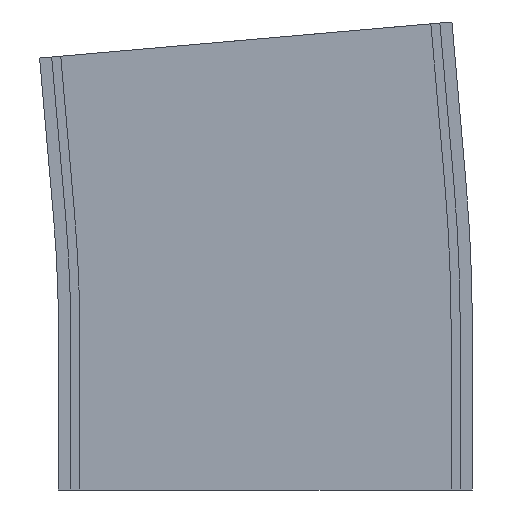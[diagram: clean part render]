
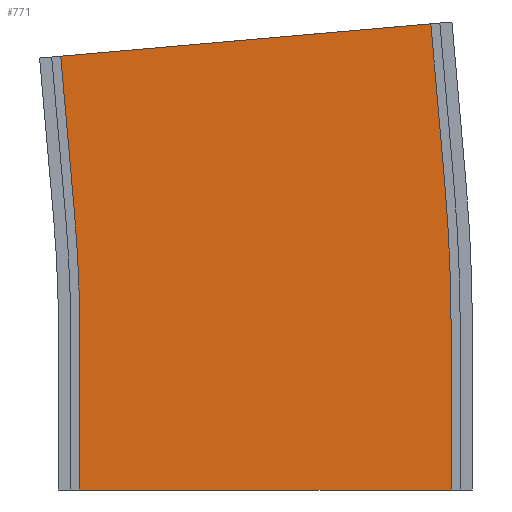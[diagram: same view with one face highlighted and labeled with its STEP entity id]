
A CAD part, left-side view. The second image highlights one B-rep face of the part: STEP entity #771.
In plain terms, the highlighted planar face has unit normal (-1, 0, 0).
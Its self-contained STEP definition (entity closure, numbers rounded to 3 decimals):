
#69 = CARTESIAN_POINT ( 'NONE',  ( -173., -59.114, 101.416 ) ) ;
#97 = AXIS2_PLACEMENT_3D ( 'NONE', #1161, #819, #932 ) ;
#110 = DIRECTION ( 'NONE',  ( 0., 0., 1. ) ) ;
#114 = VECTOR ( 'NONE', #201, 1000. ) ;
#121 = DIRECTION ( 'NONE',  ( -1., 0., 0. ) ) ;
#125 = CIRCLE ( 'NONE', #1027, 561.25 ) ;
#157 = CARTESIAN_POINT ( 'NONE',  ( -173., 61.25, 52.5 ) ) ;
#160 = DIRECTION ( 'NONE',  ( 0., -0.996, 0.087 ) ) ;
#166 = ORIENTED_EDGE ( 'NONE', *, *, #1408, .T. ) ;
#169 = EDGE_LOOP ( 'NONE', ( #1209, #717, #678, #166, #1099, #869, #575, #284 ) ) ;
#185 = VERTEX_POINT ( 'NONE', #855 ) ;
#201 = DIRECTION ( 'NONE',  ( 0., 0., -1. ) ) ;
#231 = LINE ( 'NONE', #1114, #956 ) ;
#284 = ORIENTED_EDGE ( 'NONE', *, *, #321, .T. ) ;
#321 = EDGE_CURVE ( 'NONE', #715, #498, #897, .T. ) ;
#340 = EDGE_CURVE ( 'NONE', #730, #1172, #231, .T. ) ;
#344 = LINE ( 'NONE', #807, #1309 ) ;
#353 = VECTOR ( 'NONE', #839, 1000. ) ;
#359 = CIRCLE ( 'NONE', #1333, 438.75 ) ;
#366 = EDGE_CURVE ( 'NONE', #498, #1160, #344, .T. ) ;
#367 = DIRECTION ( 'NONE',  ( 0., 0., -1. ) ) ;
#386 = CARTESIAN_POINT ( 'NONE',  ( -173., -54.539, 153.716 ) ) ;
#458 = CARTESIAN_POINT ( 'NONE',  ( -173., 61.25, 0. ) ) ;
#498 = VERTEX_POINT ( 'NONE', #458 ) ;
#507 = CARTESIAN_POINT ( 'NONE',  ( -173., -59.114, 101.416 ) ) ;
#524 = LINE ( 'NONE', #386, #863 ) ;
#535 = DIRECTION ( 'NONE',  ( 0., 0., 1. ) ) ;
#569 = LINE ( 'NONE', #507, #353 ) ;
#572 = CARTESIAN_POINT ( 'NONE',  ( -173., -61.25, 0. ) ) ;
#575 = ORIENTED_EDGE ( 'NONE', *, *, #939, .F. ) ;
#582 = DIRECTION ( 'NONE',  ( 0., -1., 0. ) ) ;
#602 = EDGE_CURVE ( 'NONE', #1172, #1192, #524, .T. ) ;
#629 = CARTESIAN_POINT ( 'NONE',  ( -173., 500., 52.5 ) ) ;
#672 = VECTOR ( 'NONE', #367, 1000. ) ;
#678 = ORIENTED_EDGE ( 'NONE', *, *, #851, .T. ) ;
#702 = DIRECTION ( 'NONE',  ( 0., 0.087, 0.996 ) ) ;
#715 = VERTEX_POINT ( 'NONE', #1276 ) ;
#717 = ORIENTED_EDGE ( 'NONE', *, *, #925, .F. ) ;
#730 = VERTEX_POINT ( 'NONE', #1374 ) ;
#771 = ADVANCED_FACE ( 'NONE', ( #1015 ), #1254, .F. ) ;
#807 = CARTESIAN_POINT ( 'NONE',  ( -173., -61.25, 0. ) ) ;
#819 = DIRECTION ( 'NONE',  ( 1., 0., 0. ) ) ;
#839 = DIRECTION ( 'NONE',  ( 0., 0.087, 0.996 ) ) ;
#851 = EDGE_CURVE ( 'NONE', #185, #1226, #125, .T. ) ;
#855 = CARTESIAN_POINT ( 'NONE',  ( -173., -61.25, 52.5 ) ) ;
#857 = CARTESIAN_POINT ( 'NONE',  ( -173., -61.25, 52.5 ) ) ;
#863 = VECTOR ( 'NONE', #160, 1000. ) ;
#869 = ORIENTED_EDGE ( 'NONE', *, *, #340, .F. ) ;
#897 = LINE ( 'NONE', #157, #672 ) ;
#925 = EDGE_CURVE ( 'NONE', #185, #1160, #1260, .T. ) ;
#932 = DIRECTION ( 'NONE',  ( 0., 1., 0. ) ) ;
#939 = EDGE_CURVE ( 'NONE', #715, #730, #359, .T. ) ;
#956 = VECTOR ( 'NONE', #702, 1000. ) ;
#1009 = CARTESIAN_POINT ( 'NONE',  ( -173., -54.539, 153.716 ) ) ;
#1015 = FACE_OUTER_BOUND ( 'NONE', #169, .T. ) ;
#1027 = AXIS2_PLACEMENT_3D ( 'NONE', #629, #1059, #110 ) ;
#1059 = DIRECTION ( 'NONE',  ( -1., 0., 0. ) ) ;
#1099 = ORIENTED_EDGE ( 'NONE', *, *, #602, .F. ) ;
#1114 = CARTESIAN_POINT ( 'NONE',  ( -173., 62.92, 90.74 ) ) ;
#1160 = VERTEX_POINT ( 'NONE', #572 ) ;
#1161 = CARTESIAN_POINT ( 'NONE',  ( -173., -61.25, 52.5 ) ) ;
#1172 = VERTEX_POINT ( 'NONE', #1320 ) ;
#1192 = VERTEX_POINT ( 'NONE', #1009 ) ;
#1194 = CARTESIAN_POINT ( 'NONE',  ( -173., 500., 52.5 ) ) ;
#1209 = ORIENTED_EDGE ( 'NONE', *, *, #366, .T. ) ;
#1226 = VERTEX_POINT ( 'NONE', #69 ) ;
#1254 = PLANE ( 'NONE',  #97 ) ;
#1260 = LINE ( 'NONE', #857, #114 ) ;
#1276 = CARTESIAN_POINT ( 'NONE',  ( -173., 61.25, 52.5 ) ) ;
#1309 = VECTOR ( 'NONE', #582, 1000. ) ;
#1320 = CARTESIAN_POINT ( 'NONE',  ( -173., 67.495, 143.04 ) ) ;
#1333 = AXIS2_PLACEMENT_3D ( 'NONE', #1194, #121, #535 ) ;
#1374 = CARTESIAN_POINT ( 'NONE',  ( -173., 62.92, 90.74 ) ) ;
#1408 = EDGE_CURVE ( 'NONE', #1226, #1192, #569, .T. ) ;
